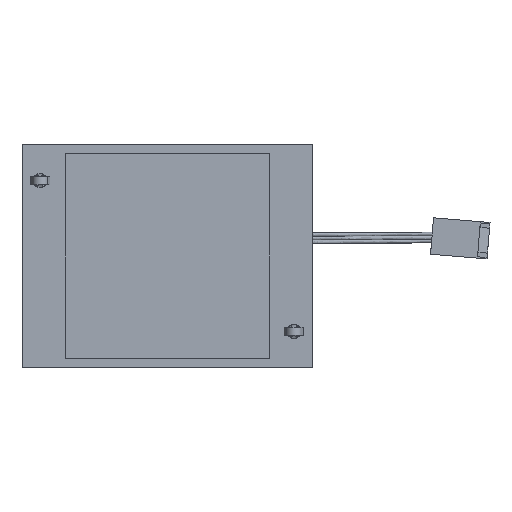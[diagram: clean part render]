
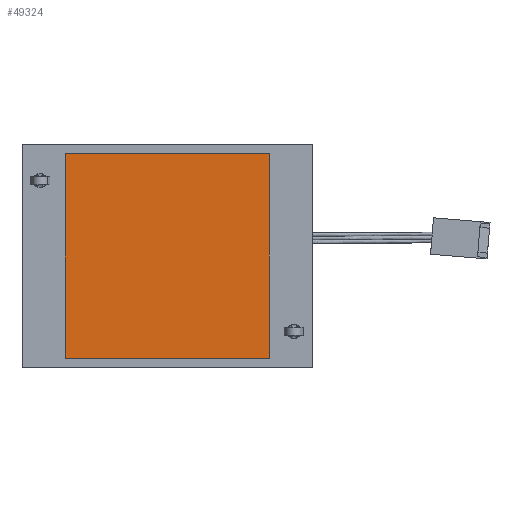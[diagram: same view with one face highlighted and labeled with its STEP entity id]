
A CAD part, front view. The second image highlights one B-rep face of the part: STEP entity #49324.
In plain terms, the highlighted planar face has unit normal (0, -1, 0).
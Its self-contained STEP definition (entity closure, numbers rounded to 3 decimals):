
#1731 = VECTOR ( 'NONE', #55302, 1000. ) ;
#1867 = VERTEX_POINT ( 'NONE', #7819 ) ;
#3447 = AXIS2_PLACEMENT_3D ( 'NONE', #54400, #36539, #59739 ) ;
#3482 = LINE ( 'NONE', #38516, #13631 ) ;
#4621 = DIRECTION ( 'NONE',  ( 0., 0., -1. ) ) ;
#7270 = ORIENTED_EDGE ( 'NONE', *, *, #27777, .F. ) ;
#7819 = CARTESIAN_POINT ( 'NONE',  ( 22.86, 0., 22.86 ) ) ;
#10409 = EDGE_LOOP ( 'NONE', ( #13211, #7270, #62590, #34242 ) ) ;
#13211 = ORIENTED_EDGE ( 'NONE', *, *, #68988, .F. ) ;
#13631 = VECTOR ( 'NONE', #4621, 1000. ) ;
#15433 = DIRECTION ( 'NONE',  ( -1., 0., 0. ) ) ;
#19306 = CARTESIAN_POINT ( 'NONE',  ( -22.86, 0., -22.86 ) ) ;
#19587 = LINE ( 'NONE', #42816, #43169 ) ;
#22339 = VERTEX_POINT ( 'NONE', #19306 ) ;
#22783 = VERTEX_POINT ( 'NONE', #45403 ) ;
#23442 = VECTOR ( 'NONE', #15433, 1000. ) ;
#27777 = EDGE_CURVE ( 'NONE', #22783, #22339, #61496, .T. ) ;
#29959 = EDGE_CURVE ( 'NONE', #54586, #1867, #61740, .T. ) ;
#30149 = CARTESIAN_POINT ( 'NONE',  ( -22.86, 0., 22.86 ) ) ;
#31188 = FACE_OUTER_BOUND ( 'NONE', #10409, .T. ) ;
#33191 = CARTESIAN_POINT ( 'NONE',  ( 22.86, 0., 22.86 ) ) ;
#34242 = ORIENTED_EDGE ( 'NONE', *, *, #29959, .F. ) ;
#36539 = DIRECTION ( 'NONE',  ( 0., 1., 0. ) ) ;
#38516 = CARTESIAN_POINT ( 'NONE',  ( 22.86, 0., 22.86 ) ) ;
#42816 = CARTESIAN_POINT ( 'NONE',  ( -22.86, 0., 22.86 ) ) ;
#43169 = VECTOR ( 'NONE', #66013, 1000. ) ;
#45403 = CARTESIAN_POINT ( 'NONE',  ( 22.86, 0., -22.86 ) ) ;
#49324 = ADVANCED_FACE ( 'NONE', ( #31188 ), #71113, .F. ) ;
#54400 = CARTESIAN_POINT ( 'NONE',  ( 0., 0., 0. ) ) ;
#54586 = VERTEX_POINT ( 'NONE', #30149 ) ;
#55302 = DIRECTION ( 'NONE',  ( 1., 0., 0. ) ) ;
#55798 = CARTESIAN_POINT ( 'NONE',  ( 22.86, 0., -22.86 ) ) ;
#59739 = DIRECTION ( 'NONE',  ( 0., 0., 1. ) ) ;
#61496 = LINE ( 'NONE', #55798, #23442 ) ;
#61740 = LINE ( 'NONE', #33191, #1731 ) ;
#62590 = ORIENTED_EDGE ( 'NONE', *, *, #64974, .F. ) ;
#64974 = EDGE_CURVE ( 'NONE', #1867, #22783, #3482, .T. ) ;
#66013 = DIRECTION ( 'NONE',  ( 0., 0., 1. ) ) ;
#68988 = EDGE_CURVE ( 'NONE', #22339, #54586, #19587, .T. ) ;
#71113 = PLANE ( 'NONE',  #3447 ) ;
